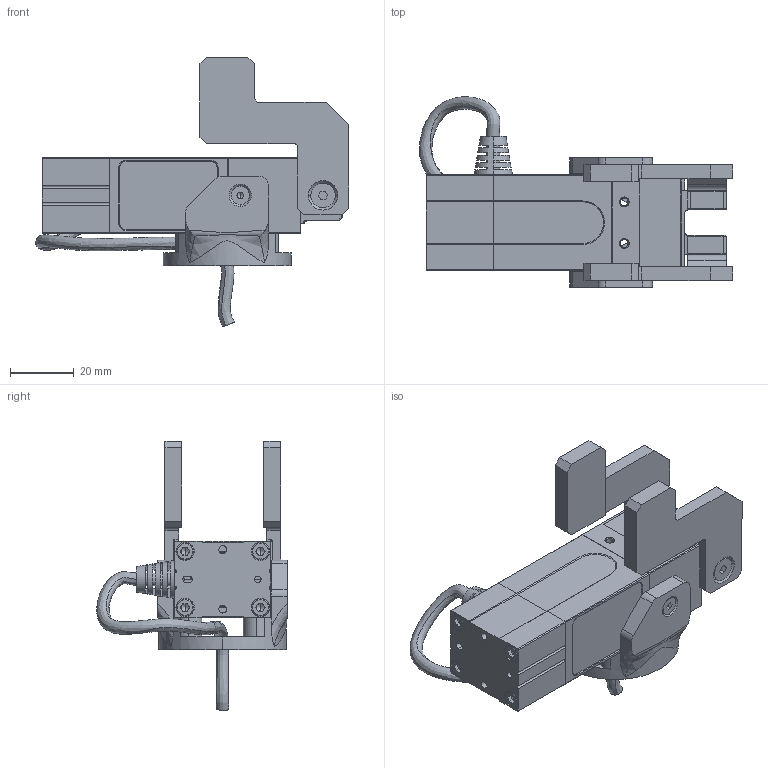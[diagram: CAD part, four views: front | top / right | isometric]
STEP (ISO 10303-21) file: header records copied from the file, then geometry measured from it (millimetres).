
FILE_DESCRIPTION (( 'STEP AP214' ), '1' );
FILE_NAME ('astorino_electric_gripper_inline.STEP', '2024-05-02T08:21:30', ( '' ), ( '' ), 'SwSTEP 2.0', 'SolidWorks 2021', '' );
FILE_SCHEMA (( 'AUTOMOTIVE_DESIGN' ));
Length unit declared in the file: millimetre
Products named in the file (1): astorino_electric_gripper_inline
Bounding box: 98 x 59.62 x 84.27 mm (x, y, z)
Surface area: 27285.8 mm2 (no closed solid volume)
Topology: 0 solids, 23 shells, 433 faces, 1351 edges, 903 vertices
Faces by surface type: plane 276, cylinder 87, cone 48, bspline 12, torus 8, sphere 2
Entity records: 21654 total; most frequent: CARTESIAN_POINT 4929, DIRECTION 2521, ORIENTED_EDGE 2273, EDGE_CURVE 1337, VERTEX_POINT 903, VECTOR 899, LINE 899, AXIS2_PLACEMENT_3D 811
